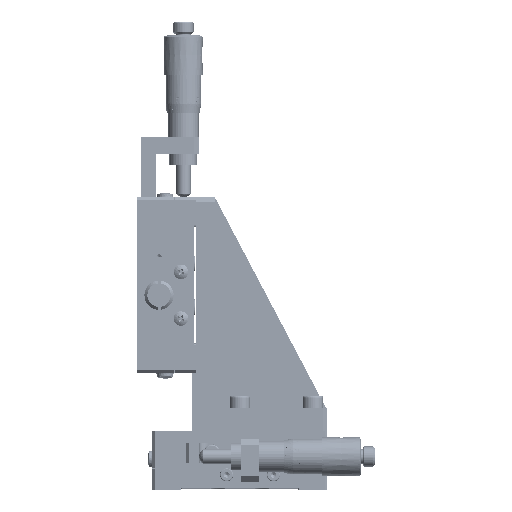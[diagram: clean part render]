
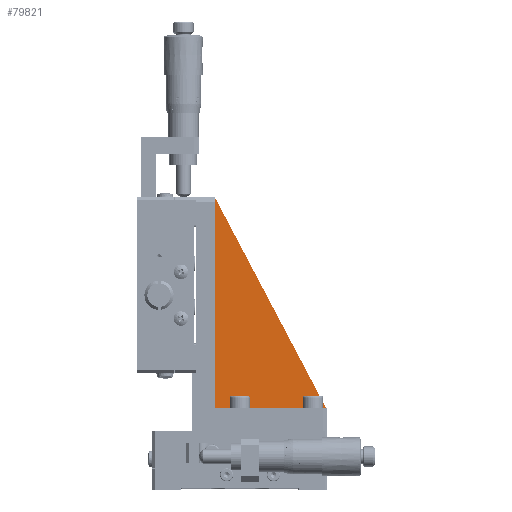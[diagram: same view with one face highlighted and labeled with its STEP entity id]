
A CAD part, top view. The second image highlights one B-rep face of the part: STEP entity #79821.
In plain terms, the highlighted planar face has unit normal (0, 0, 1).
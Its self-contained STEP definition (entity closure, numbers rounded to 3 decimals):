
#1805 = FACE_OUTER_BOUND ( 'NONE', #66325, .T. ) ;
#7817 = CARTESIAN_POINT ( 'NONE',  ( 14.75, 80., 5. ) ) ;
#9621 = DIRECTION ( 'NONE',  ( 1., 0., 0. ) ) ;
#11760 = VECTOR ( 'NONE', #33205, 1000. ) ;
#17049 = LINE ( 'NONE', #58070, #91196 ) ;
#33205 = DIRECTION ( 'NONE',  ( 0., -1., 0. ) ) ;
#42052 = CARTESIAN_POINT ( 'NONE',  ( 10.75, 8., 5. ) ) ;
#48152 = EDGE_CURVE ( 'NONE', #140577, #68102, #158703, .T. ) ;
#55138 = PLANE ( 'NONE',  #147656 ) ;
#58070 = CARTESIAN_POINT ( 'NONE',  ( 14.75, 80., 5. ) ) ;
#62621 = DIRECTION ( 'NONE',  ( 1., 0., 0. ) ) ;
#66325 = EDGE_LOOP ( 'NONE', ( #133507, #67705, #75401 ) ) ;
#67705 = ORIENTED_EDGE ( 'NONE', *, *, #48152, .T. ) ;
#68102 = VERTEX_POINT ( 'NONE', #102197 ) ;
#75401 = ORIENTED_EDGE ( 'NONE', *, *, #125725, .T. ) ;
#79821 = ADVANCED_FACE ( 'NONE', ( #1805 ), #55138, .T. ) ;
#90012 = CARTESIAN_POINT ( 'NONE',  ( 14.75, 80., 5. ) ) ;
#91128 = EDGE_CURVE ( 'NONE', #124437, #140577, #152942, .T. ) ;
#91196 = VECTOR ( 'NONE', #165574, 1000. ) ;
#92073 = CARTESIAN_POINT ( 'NONE',  ( 14.75, 8., 5. ) ) ;
#95308 = DIRECTION ( 'NONE',  ( 0., 0., 1. ) ) ;
#102197 = CARTESIAN_POINT ( 'NONE',  ( 52.75, 8., 5. ) ) ;
#105359 = CARTESIAN_POINT ( 'NONE',  ( 14.75, 8., 5. ) ) ;
#124437 = VERTEX_POINT ( 'NONE', #90012 ) ;
#125725 = EDGE_CURVE ( 'NONE', #68102, #124437, #17049, .T. ) ;
#133507 = ORIENTED_EDGE ( 'NONE', *, *, #91128, .T. ) ;
#140577 = VERTEX_POINT ( 'NONE', #92073 ) ;
#147656 = AXIS2_PLACEMENT_3D ( 'NONE', #42052, #95308, #9621 ) ;
#151814 = VECTOR ( 'NONE', #62621, 1000. ) ;
#152942 = LINE ( 'NONE', #7817, #11760 ) ;
#158703 = LINE ( 'NONE', #105359, #151814 ) ;
#165574 = DIRECTION ( 'NONE',  ( -0.467, 0.884, 0. ) ) ;
